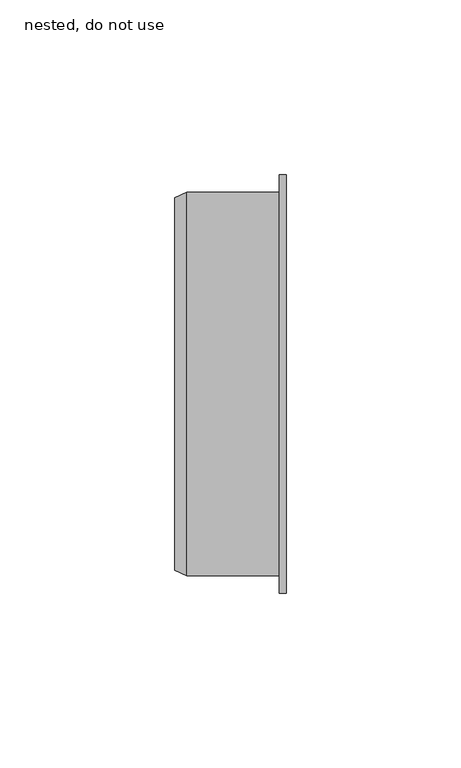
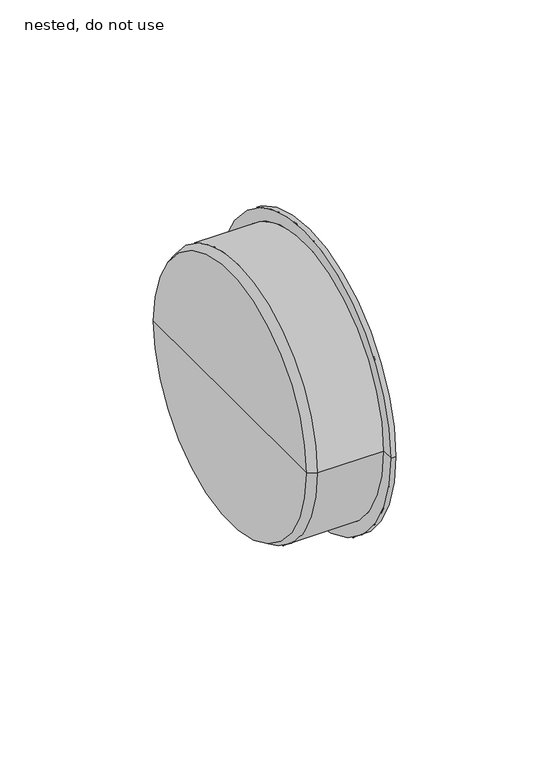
"""IFC4 building model written with IfcOpenShell, lengths in millimetres: pipe fitting geometry, ZZZ_do no use_PIF_HDPE protective cap for plugin socket -SH_Akatherm : nested, do not use."""

from ifc_helpers import new_model, si_unit, frame, origin, place, context, project, spatial, polyline, circle_curve, source, transform, mapped, element, save
from ifc_brep_helpers import plane_surface, cylinder_surface, revolved_surface, advanced_brep


def nested_do_not_use_e207d9e7(model_context):
    return source(origin(), model_context, "Body", "AdvancedBrep", [
        advanced_brep(
        [(0.0, -60.0, 0.0), (0.0, 60.0, 0.0), (2.0, 60.0, 0.0), (2.0, -60.0, 0.0), (0.0, -55.0, 0.0), (0.0, 55.0, 0.0), (-26.5, -55.0, 0.0), (-26.5, 55.0, 0.0), (-30.0, -53.3, 0.0), (-30.0, 53.3, 0.0), (-30.0, 0.0, 0.0), (2.0, 0.0, 0.0)],
        [
            (0, 1, circle_curve(frame((0.0, 0.0, 0.0), z_axis=(1.0, 0.0, 0.0), x_axis=(0.0, 1.0, 0.0)), 60.0)),
            (1, 2),
            (2, 3, circle_curve(frame((2.0, 0.0, 0.0), z_axis=(-1.0, 0.0, 0.0), x_axis=(0.0, 1.0, 0.0)), 60.0)),
            (3, 0),
            (1, 0, circle_curve(frame((0.0, 0.0, 0.0), z_axis=(1.0, 0.0, 0.0), x_axis=(0.0, 1.0, 0.0)), 60.0)),
            (3, 2, circle_curve(frame((2.0, 0.0, 0.0), z_axis=(-1.0, 0.0, 0.0), x_axis=(0.0, 1.0, 0.0)), 60.0)),
            (4, 5, circle_curve(frame((0.0, 0.0, 0.0), z_axis=(1.0, 0.0, 0.0), x_axis=(0.0, 1.0, 0.0)), 55.0)),
            (5, 1),
            (0, 4),
            (5, 4, circle_curve(frame((0.0, 0.0, 0.0), z_axis=(1.0, 0.0, 0.0), x_axis=(0.0, 1.0, 0.0)), 55.0)),
            (6, 7, circle_curve(frame((-26.5, 0.0, 0.0), z_axis=(1.0, 0.0, 0.0), x_axis=(0.0, 1.0, 0.0)), 55.0)),
            (7, 5),
            (4, 6),
            (7, 6, circle_curve(frame((-26.5, 0.0, 0.0), z_axis=(1.0, 0.0, 0.0), x_axis=(0.0, 1.0, 0.0)), 55.0)),
            (8, 9, circle_curve(frame((-30.0, 0.0, 0.0), z_axis=(1.0, 0.0, 0.0), x_axis=(0.0, 1.0, 0.0)), 53.3)),
            (9, 7),
            (6, 8),
            (9, 8, circle_curve(frame((-30.0, 0.0, 0.0), z_axis=(1.0, 0.0, 0.0), x_axis=(0.0, 1.0, 0.0)), 53.3)),
            (10, 9),
            (8, 10),
            (2, 11),
            (11, 3),
        ],
        [
            cylinder_surface(frame((177.0, 0.0, 0.0), z_axis=(-1.0, 0.0, 0.0), x_axis=(0.0, 1.0, 0.0)), 60.0),
            plane_surface(frame((0.0, 0.0, 0.0), z_axis=(-1.0, 0.0, 0.0), x_axis=(0.0, 1.0, 0.0))),
            cylinder_surface(frame((177.0, 0.0, 0.0), z_axis=(-1.0, 0.0, 0.0), x_axis=(0.0, 1.0, 0.0)), 55.0),
            revolved_surface(polyline([(-26.5, 55.0, 0.0), (-30.0, 53.3, 0.0)]), (177.0, 0.0, 0.0), (-1.0, 0.0, 0.0)),
            plane_surface(frame((-30.0, 0.0, 0.0), z_axis=(-1.0, 0.0, 0.0), x_axis=(0.0, 1.0, 0.0))),
            plane_surface(frame((2.0, 0.0, 0.0), z_axis=(1.0, 0.0, 0.0), x_axis=(0.0, 1.0, 0.0))),
        ],
        [
            (0, [[1, 2, 3, 4]]),
            (0, [[5, -4, 6, -2]]),
            (1, [[7, 8, -1, 9]]),
            (1, [[10, -9, -5, -8]]),
            (2, [[11, 12, -7, 13]]),
            (2, [[14, -13, -10, -12]]),
            (3, [[15, 16, -11, 17]]),
            (3, [[18, -17, -14, -16]]),
            (4, [[19, -15, 20]]),
            (4, [[-20, -18, -19]]),
            (5, [[-3, 21, 22]]),
            (5, [[-6, -22, -21]]),
        ],
    ),
    ])


if __name__ == "__main__":
    model = new_model("IFC4")
    model_context = context("Model", 3, world=origin())
    ifc_project = project(units=[si_unit("LENGTHUNIT", "METRE", prefix="MILLI")], contexts=[model_context])
    site = spatial("IfcSite", under=ifc_project)
    building = spatial("IfcBuilding", under=site)
    placement = place(None, origin())
    nested_do_not_use_shape = nested_do_not_use_e207d9e7(model_context)
    element("IfcPipeFitting", 1, ObjectType="ZZZ_do no use_PIF_HDPE protective cap for plugin socket -SH_Akatherm : nested, do not use", at=placement, inside=building, context=model_context, shape_type="MappedRepresentation", body=[
        mapped(nested_do_not_use_shape, transform((0.0, 0.0, 0.0), x_axis=(1.0, 0.0, 0.0), y_axis=(0.0, 1.0, 0.0), z_axis=(0.0, 0.0, 1.0))),
    ])
    save(model, "model.ifc")
